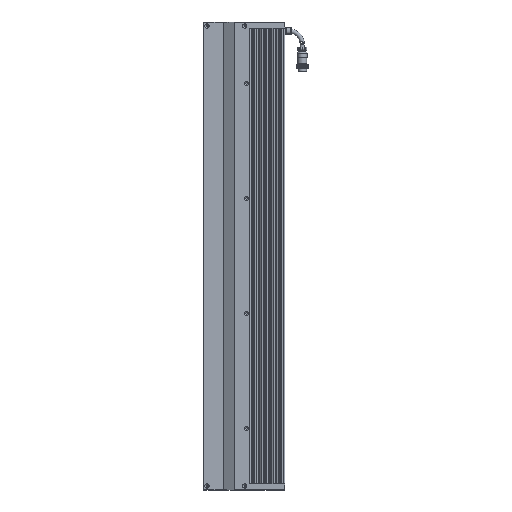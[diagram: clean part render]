
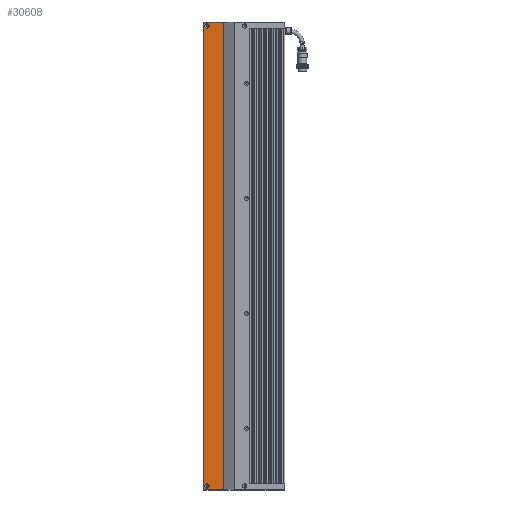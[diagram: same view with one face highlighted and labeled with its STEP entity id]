
A CAD part, left-side view. The second image highlights one B-rep face of the part: STEP entity #30608.
In plain terms, the highlighted planar face has unit normal (-1, 0, 0).
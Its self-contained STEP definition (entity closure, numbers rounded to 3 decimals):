
#1737 = FACE_OUTER_BOUND ( 'NONE', #56292, .T. ) ;
#2530 = ORIENTED_EDGE ( 'NONE', *, *, #75084, .F. ) ;
#3790 = DIRECTION ( 'NONE',  ( 0., 0., -1. ) ) ;
#9345 = CARTESIAN_POINT ( 'NONE',  ( -15.462, 16.939, 805.5 ) ) ;
#11727 = DIRECTION ( 'NONE',  ( -1., 0., 0. ) ) ;
#18957 = VERTEX_POINT ( 'NONE', #19341 ) ;
#19097 = DIRECTION ( 'NONE',  ( 0., 0., 1. ) ) ;
#19341 = CARTESIAN_POINT ( 'NONE',  ( -15.462, 21.439, 811. ) ) ;
#21470 = VERTEX_POINT ( 'NONE', #112191 ) ;
#22632 = CARTESIAN_POINT ( 'NONE',  ( -15.462, 16.939, 808.65 ) ) ;
#23121 = AXIS2_PLACEMENT_3D ( 'NONE', #120899, #52472, #3790 ) ;
#23247 = VECTOR ( 'NONE', #100368, 1000. ) ;
#24174 = DIRECTION ( 'NONE',  ( 0., 0., -1. ) ) ;
#26025 = LINE ( 'NONE', #31703, #48753 ) ;
#26034 = FACE_BOUND ( 'NONE', #113321, .T. ) ;
#30393 = CIRCLE ( 'NONE', #35248, 3.15 ) ;
#30608 = ADVANCED_FACE ( 'NONE', ( #53272, #26034, #1737 ), #52898, .F. ) ;
#31703 = CARTESIAN_POINT ( 'NONE',  ( -15.462, -7.561, 811. ) ) ;
#32408 = CARTESIAN_POINT ( 'NONE',  ( -15.462, -7.561, 120. ) ) ;
#35248 = AXIS2_PLACEMENT_3D ( 'NONE', #98748, #11727, #108500 ) ;
#35332 = ORIENTED_EDGE ( 'NONE', *, *, #81533, .F. ) ;
#35417 = VERTEX_POINT ( 'NONE', #101808 ) ;
#41397 = ORIENTED_EDGE ( 'NONE', *, *, #86051, .F. ) ;
#42262 = DIRECTION ( 'NONE',  ( 0., -1., 0. ) ) ;
#43523 = LINE ( 'NONE', #122638, #98182 ) ;
#48753 = VECTOR ( 'NONE', #42262, 1000. ) ;
#48817 = ORIENTED_EDGE ( 'NONE', *, *, #73372, .F. ) ;
#50620 = CARTESIAN_POINT ( 'NONE',  ( -15.462, 21.439, 809.5 ) ) ;
#51062 = CARTESIAN_POINT ( 'NONE',  ( -15.462, -6.987, 120. ) ) ;
#52472 = DIRECTION ( 'NONE',  ( 1., 0., 0. ) ) ;
#52898 = PLANE ( 'NONE',  #23121 ) ;
#53272 = FACE_BOUND ( 'NONE', #108693, .T. ) ;
#56277 = VERTEX_POINT ( 'NONE', #51062 ) ;
#56292 = EDGE_LOOP ( 'NONE', ( #48817, #35332, #87988, #81150 ) ) ;
#63685 = VECTOR ( 'NONE', #100375, 1000. ) ;
#70190 = AXIS2_PLACEMENT_3D ( 'NONE', #9345, #77252, #19097 ) ;
#73372 = EDGE_CURVE ( 'NONE', #35417, #18957, #109843, .T. ) ;
#74751 = CARTESIAN_POINT ( 'NONE',  ( -15.462, -6.987, 811. ) ) ;
#75084 = EDGE_CURVE ( 'NONE', #118667, #118667, #119855, .T. ) ;
#77252 = DIRECTION ( 'NONE',  ( -1., 0., 0. ) ) ;
#80782 = EDGE_CURVE ( 'NONE', #97126, #56277, #43523, .T. ) ;
#81150 = ORIENTED_EDGE ( 'NONE', *, *, #113622, .F. ) ;
#81533 = EDGE_CURVE ( 'NONE', #56277, #35417, #118419, .T. ) ;
#86051 = EDGE_CURVE ( 'NONE', #21470, #21470, #30393, .T. ) ;
#87988 = ORIENTED_EDGE ( 'NONE', *, *, #80782, .F. ) ;
#97126 = VERTEX_POINT ( 'NONE', #74751 ) ;
#98182 = VECTOR ( 'NONE', #24174, 1000. ) ;
#98748 = CARTESIAN_POINT ( 'NONE',  ( -15.462, 16.939, 125.5 ) ) ;
#100368 = DIRECTION ( 'NONE',  ( 0., 0., 1. ) ) ;
#100375 = DIRECTION ( 'NONE',  ( 0., 1., 0. ) ) ;
#101808 = CARTESIAN_POINT ( 'NONE',  ( -15.462, 21.439, 120. ) ) ;
#108500 = DIRECTION ( 'NONE',  ( 0., 0., 1. ) ) ;
#108693 = EDGE_LOOP ( 'NONE', ( #41397 ) ) ;
#109843 = LINE ( 'NONE', #50620, #23247 ) ;
#112191 = CARTESIAN_POINT ( 'NONE',  ( -15.462, 16.939, 128.65 ) ) ;
#113321 = EDGE_LOOP ( 'NONE', ( #2530 ) ) ;
#113622 = EDGE_CURVE ( 'NONE', #18957, #97126, #26025, .T. ) ;
#118419 = LINE ( 'NONE', #32408, #63685 ) ;
#118667 = VERTEX_POINT ( 'NONE', #22632 ) ;
#119855 = CIRCLE ( 'NONE', #70190, 3.15 ) ;
#120899 = CARTESIAN_POINT ( 'NONE',  ( -15.462, -7.561, 809.5 ) ) ;
#122638 = CARTESIAN_POINT ( 'NONE',  ( -15.462, -6.987, 809.5 ) ) ;
